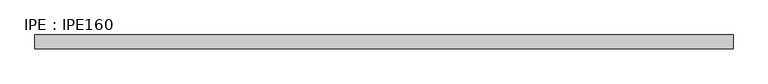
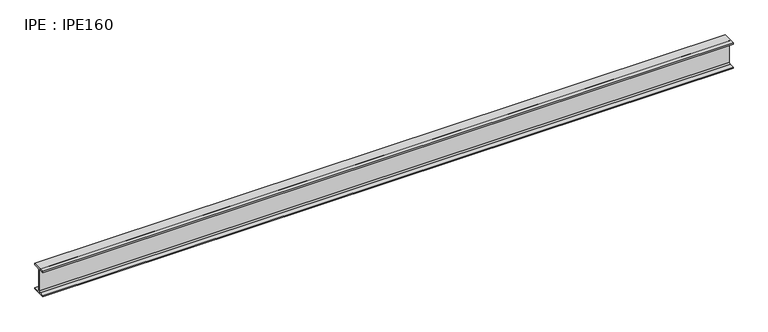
"""IFC4 building model written with IfcOpenShell, lengths in millimetres: beam geometry, IPE : IPE160."""

from ifc_helpers import new_model, si_unit, point, frame, frame_2d, origin, place, context, project, spatial, polyline, circle_curve, trimmed, segment, composite_curve, outline, extrude, source, transform, mapped, element, save


def ipe_ipe160_b1518f31(model_context):
    return source(origin(), model_context, "Body", "SweptSolid", [
        extrude(outline(composite_curve([segment(polyline([(41.0, -72.6), (41.0, -80.0), (-41.0, -80.0), (-41.0, -72.6), (-11.5, -72.6)]), True, "CONTINUOUS"), segment(trimmed(circle_curve(frame_2d((-11.5, -63.6)), 9.0), [point((-11.5, -72.6))], [point((-2.5, -63.6))], True, "CARTESIAN"), True, "CONTINUOUS"), segment(polyline([(-2.5, -63.6), (-2.5, 63.6)]), True, "CONTINUOUS"), segment(trimmed(circle_curve(frame_2d((-11.5, 63.6)), 9.0), [point((-2.5, 63.6))], [point((-11.5, 72.6))], True, "CARTESIAN"), True, "CONTINUOUS"), segment(polyline([(-11.5, 72.6), (-41.0, 72.6), (-41.0, 80.0), (41.0, 80.0), (41.0, 72.6), (11.5, 72.6)]), True, "CONTINUOUS"), segment(trimmed(circle_curve(frame_2d((11.5, 63.6)), 9.0), [point((11.5, 72.6))], [point((2.5, 63.6))], True, "CARTESIAN"), True, "CONTINUOUS"), segment(polyline([(2.5, 63.6), (2.5, -63.6)]), True, "CONTINUOUS"), segment(trimmed(circle_curve(frame_2d((11.5, -63.6)), 9.0), [point((2.5, -63.6))], [point((11.5, -72.6))], True, "CARTESIAN"), True, "CONTINUOUS"), segment(polyline([(11.5, -72.6), (41.0, -72.6)]), True, "CONTINUOUS")], self_intersect=False)), frame((-2008.6, 0.0, 0.0), z_axis=(1.0, 0.0, 0.0), x_axis=(0.0, 1.0, 0.0)), (0.0, 0.0, 1.0), 4091.7),
    ])


if __name__ == "__main__":
    model = new_model("IFC4")
    model_context = context("Model", 3, world=origin())
    ifc_project = project(units=[si_unit("LENGTHUNIT", "METRE", prefix="MILLI")], contexts=[model_context])
    site = spatial("IfcSite", under=ifc_project)
    building = spatial("IfcBuilding", under=site)
    placement = place(None, origin())
    ipe_ipe160_shape = ipe_ipe160_b1518f31(model_context)
    element("IfcBeam", 1, ObjectType="IPE : IPE160", at=placement, inside=building, context=model_context, shape_type="MappedRepresentation", body=[
        mapped(ipe_ipe160_shape, transform((0.0, 0.0, 0.0), x_axis=(1.0, 0.0, 0.0), y_axis=(0.0, 1.0, 0.0), z_axis=(0.0, 0.0, 1.0))),
    ])
    save(model, "model.ifc")
